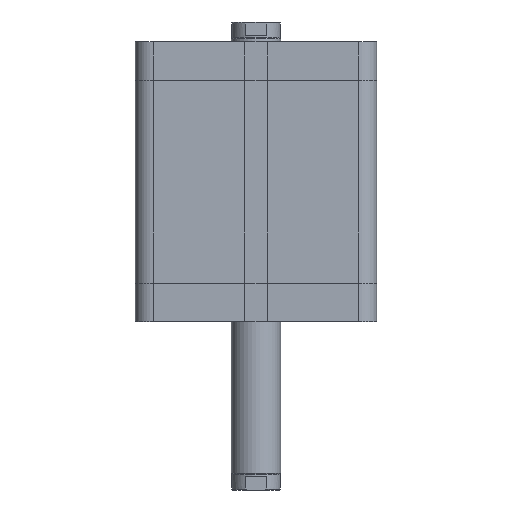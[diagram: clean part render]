
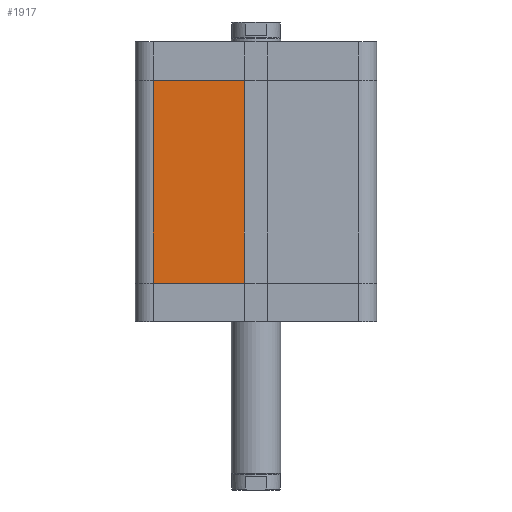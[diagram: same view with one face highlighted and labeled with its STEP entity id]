
A CAD part, front view. The second image highlights one B-rep face of the part: STEP entity #1917.
In plain terms, the highlighted planar face has unit normal (0, -1, 0).
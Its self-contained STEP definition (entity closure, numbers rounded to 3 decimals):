
#1828=CARTESIAN_POINT('',(-52.0,-61.,19.5));
#1829=VERTEX_POINT('',#1828);
#1837=CARTESIAN_POINT('',(-52.0,-61.,122.));
#1838=VERTEX_POINT('',#1837);
#1839=CARTESIAN_POINT('',(-52.0,-61.,19.5));
#1840=DIRECTION('',(0.0,0.0,1.0));
#1841=VECTOR('',#1840,102.5);
#1842=LINE('',#1839,#1841);
#1843=EDGE_CURVE('',#1829,#1838,#1842,.T.);
#1887=CARTESIAN_POINT('',(-6.,-61.,0.0));
#1888=DIRECTION('',(0.0,-1.0,0.0));
#1889=DIRECTION('',(0.0,0.0,-1.0));
#1890=AXIS2_PLACEMENT_3D('',#1887,#1888,#1889);
#1891=PLANE('',#1890);
#1892=CARTESIAN_POINT('',(-6.,-61.,19.5));
#1893=VERTEX_POINT('',#1892);
#1894=CARTESIAN_POINT('',(-52.0,-61.,19.5));
#1895=DIRECTION('',(1.0,0.0,0.0));
#1896=VECTOR('',#1895,46.0);
#1897=LINE('',#1894,#1896);
#1898=EDGE_CURVE('',#1829,#1893,#1897,.T.);
#1899=ORIENTED_EDGE('',*,*,#1898,.T.);
#1900=CARTESIAN_POINT('',(-6.,-61.,122.));
#1901=VERTEX_POINT('',#1900);
#1902=CARTESIAN_POINT('',(-6.,-61.,19.5));
#1903=DIRECTION('',(0.0,0.0,1.0));
#1904=VECTOR('',#1903,102.5);
#1905=LINE('',#1902,#1904);
#1906=EDGE_CURVE('',#1893,#1901,#1905,.T.);
#1907=ORIENTED_EDGE('',*,*,#1906,.T.);
#1908=CARTESIAN_POINT('',(-52.0,-61.,122.));
#1909=DIRECTION('',(1.0,0.0,0.0));
#1910=VECTOR('',#1909,46.0);
#1911=LINE('',#1908,#1910);
#1912=EDGE_CURVE('',#1838,#1901,#1911,.T.);
#1913=ORIENTED_EDGE('',*,*,#1912,.F.);
#1914=ORIENTED_EDGE('',*,*,#1843,.F.);
#1915=EDGE_LOOP('',(#1899,#1907,#1913,#1914));
#1916=FACE_OUTER_BOUND('',#1915,.T.);
#1917=ADVANCED_FACE('',(#1916),#1891,.T.);
